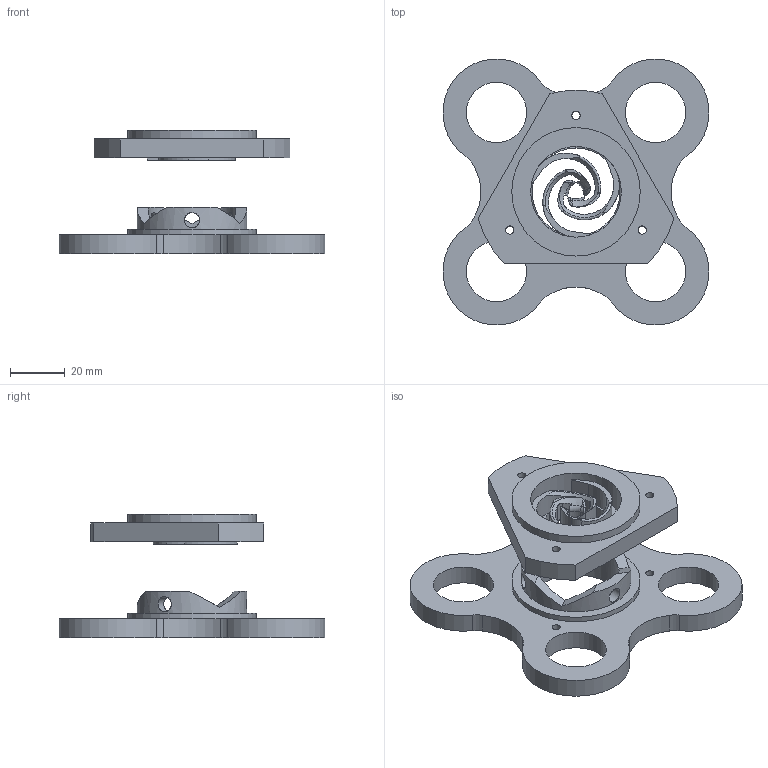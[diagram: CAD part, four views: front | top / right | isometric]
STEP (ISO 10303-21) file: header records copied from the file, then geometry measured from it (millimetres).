
FILE_DESCRIPTION(/* description */ (''),/* implementation_level */ '2;1');
FILE_NAME(/* name */ '/Users/alfonsoparrarubio/Downloads/[V1]Urumbot-pen-holder.step',/* time_stamp */ '2021-07-22T11:35:52-04:00',/* author */ (''),/* organization */ (''),/* preprocessor_version */ 'ST-DEVELOPER v18.1',/* originating_system */ 'Autodesk Translation Framework v10.9.0.1377',/* authorisation */ '');
FILE_SCHEMA (('AUTOMOTIVE_DESIGN { 1 0 10303 214 3 1 1 }'));
Length unit declared in the file: millimetre
Products named in the file (2): Space Allocation Model; Motor_Bed
Assembly tree (2 placements, depth 2):
  Space Allocation Model
    Motor_Bed  x2
Bounding box: 96.64 x 96.64 x 45 mm (x, y, z)
Volume: 120220.5 mm3; surface area: 66602.6 mm2
Topology: 8 solids, 8 shells, 280 faces, 750 edges, 490 vertices
Faces by surface type: cylinder 168, plane 70, bspline 18, cone 12, torus 12
Full cylindrical faces by diameter (mm): 3 x12, 5.5 x6, 22 x8, 32 x2, 33 x2, 40 x10, 46.728 x4
Entity records: 5444 total; most frequent: CARTESIAN_POINT 1767, DIRECTION 758, ORIENTED_EDGE 750, EDGE_CURVE 375, AXIS2_PLACEMENT_3D 319, VERTEX_POINT 245, EDGE_LOOP 176, CIRCLE 169
